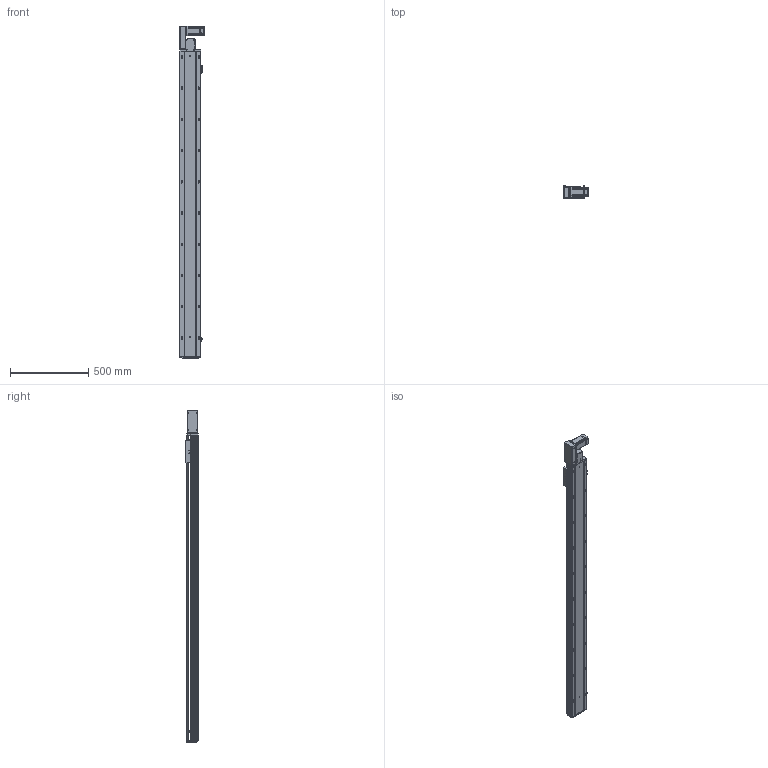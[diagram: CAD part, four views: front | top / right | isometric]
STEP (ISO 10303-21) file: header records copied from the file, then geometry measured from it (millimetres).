
FILE_DESCRIPTION (( 'STEP AP203' ), '1' );
FILE_NAME ('RY140-T-300-LK.SLDASM_1700.step', '2021-03-01T06:36:35', ( '盈信电脑' ), ( '东莞市道滘镇水果街19号' ), 'SwSTEP 2.0', 'SolidWorks 2012', '' );
FILE_SCHEMA (( 'CONFIG_CONTROL_DESIGN' ));
Products named in the file (18): RY120-T肮祭湍揤踡輸2; RY120-T肮祭湍揤踡輸1; RY140綴裔啣; RY140-T-300-DL倰第奻裔啣_1700; RY120外置感应片(140共用）; 覜茼ん672; RY140-T-300-DL倰第菁釱_1700; RY140肮祭謫臏賑輸; 滅袉蝶18-10; RY140-T翋肮謫裔啣; RY140-T-300-LK.SLDASM_1700; RY140-T萇儂欶; RY120-T主同步轮轴承压盖; RY120-T蹟翐M4; 侂狟400W侜督萇儂; 15; RY140-T萇儂假蚾啣; RY140-T翋肮祭謫盓傅釱
Assembly tree (23 placements, depth 3):
  RY140-T-300-LK.SLDASM_1700
    RY140-T-300-DL倰第菁釱_1700
    RY140肮祭謫臏賑輸
    RY140-T-300-DL倰第奻裔啣_1700
    RY140綴裔啣
    覜茼ん672  x3
    RY120外置感应片(140共用）
    RY120-T肮祭湍揤踡輸2
    RY120-T肮祭湍揤踡輸1
    RY140-T翋肮祭謫盓傅釱
    RY140-T萇儂假蚾啣
    侂狟400W侜督萇儂
      15
    RY120-T主同步轮轴承压盖
    RY120-T蹟翐M4  x4
    RY140-T萇儂欶
    滅袉蝶18-10  x2
    RY140-T翋肮謫裔啣
Bounding box: 157 x 78 x 2126.5 mm (x, y, z)
Volume: 5671616.8 mm3; surface area: 2207896.7 mm2
Topology: 22 solids, 22 shells, 2815 faces, 7717 edges, 4918 vertices
Faces by surface type: plane 1381, cylinder 1064, cone 270, bspline 100
Entity records: 88921 total; most frequent: CARTESIAN_POINT 21585, ORIENTED_EDGE 13818, DIRECTION 13213, EDGE_CURVE 6909, VERTEX_POINT 4517, AXIS2_PLACEMENT_3D 4428, LINE 4357, VECTOR 4357
